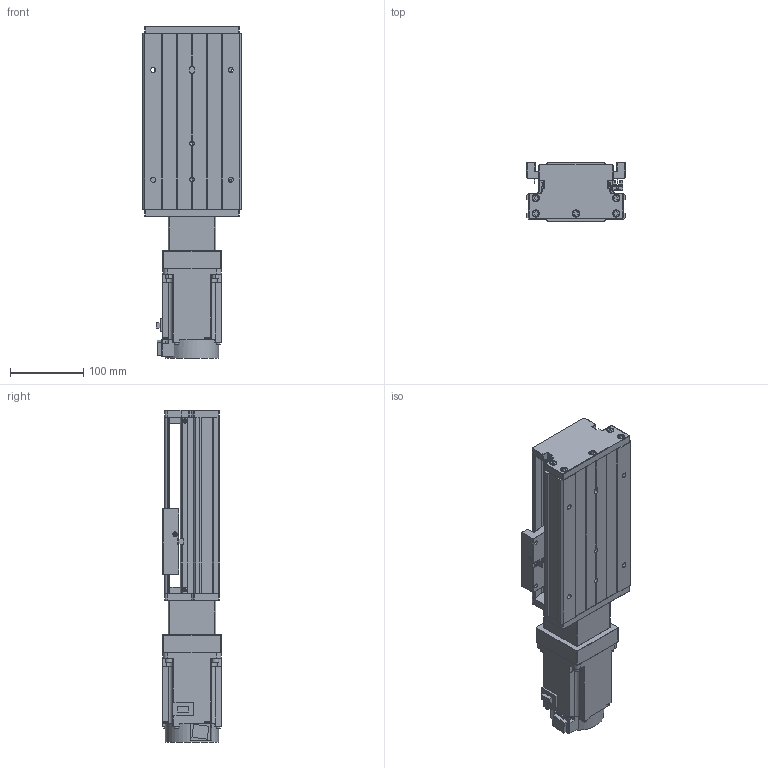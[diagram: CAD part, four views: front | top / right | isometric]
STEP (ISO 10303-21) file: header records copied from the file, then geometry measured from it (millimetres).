
FILE_DESCRIPTION (( 'STEP AP203' ), '1' );
FILE_NAME ('KTH130-100-BC-M75-C4.step', '2023-06-30T04:15:59', ( '微软用户' ), ( '微软中国' ), 'SwSTEP 2.0', 'SolidWorks 2020', '' );
FILE_SCHEMA (( 'CONFIG_CONTROL_DESIGN' ));
Length unit declared in the file: millimetre
Products named in the file (19): GBT70.1 M5℅16; す晦芛蹟隊 M3℅5; GBT 70.2-M3¡Á5_M3¡Á6; GBT 70.3-M3℅8; GTH14-001_100; CTHA60-017; CTHA86-006-1_M75; KTH130-002_KTH130-002; EE_SX911P_R; CTHA86-013; KTH130-004; CTHA60-016; CTHA86-027-1; KTH130-005; GBT 70.1-M3℅5; hg-kn73j_-s100; GB1155-6X6; GBT77-2000 M3×3; KTH130-100-BC-M75-C4
Assembly tree (52 placements, depth 2):
  KTH130-100-BC-M75-C4
    GTH14-001_100
    KTH130-002_KTH130-002
    KTH130-004
    KTH130-005
    GB1155-6X6  x2
    GBT70.1 M5℅16  x10
    GBT 70.2-M3¡Á5_M3¡Á6  x4
    CTHA60-017  x3
    EE_SX911P_R  x3
    CTHA60-016  x2
    GBT 70.1-M3℅5  x6
    GBT77-2000 M3×3  x6
    す晦芛蹟隊 M3℅5  x2
    GBT 70.3-M3℅8  x6
    CTHA86-006-1_M75
    CTHA86-013
    CTHA86-027-1
    hg-kn73j_-s100
Bounding box: 135 x 80.44 x 453.2 mm (x, y, z)
Volume: 2603131.2 mm3; surface area: 397164.6 mm2
Topology: 55 solids, 55 shells, 2230 faces, 5360 edges, 3335 vertices
Faces by surface type: plane 1236, cylinder 598, cone 280, torus 104, sphere 12
Entity records: 39230 total; most frequent: CARTESIAN_POINT 6481, DIRECTION 6431, ORIENTED_EDGE 6004, EDGE_CURVE 3002, AXIS2_PLACEMENT_3D 2221, LINE 1989, VECTOR 1989, VERTEX_POINT 1907
